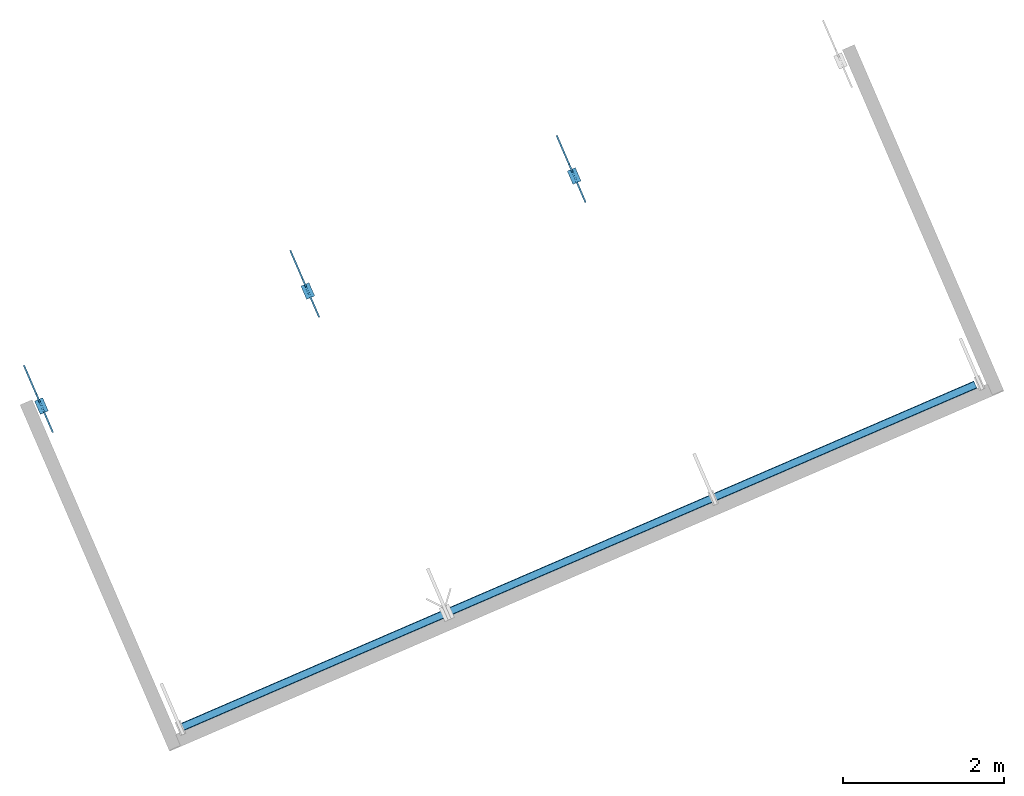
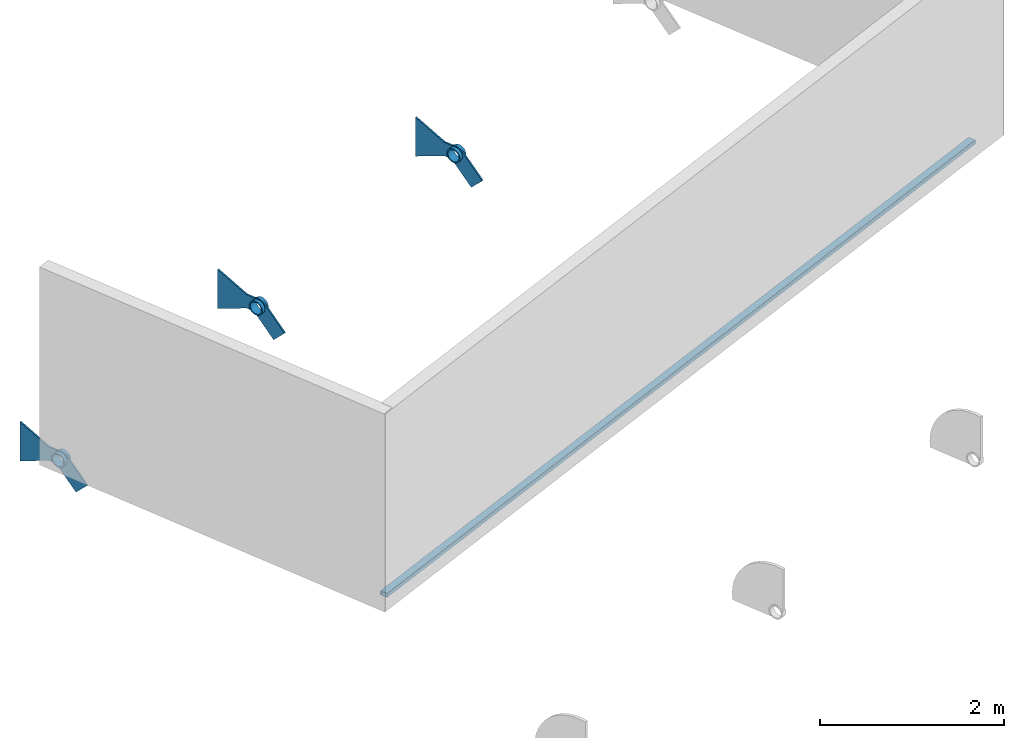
# One storey, part 2 of 5: 3 members, 1 beam.
"""IFC4 building model written with IfcOpenShell, lengths in metres."""

from ifc_helpers import new_model, entity, si_unit, converted_unit, derived_unit, direction, frame, origin, place, context, subcontext, project, spatial, line, arc, indexed_curve, outline, extrude, polygons, source, transform, mapped, material, type_object, type_shapes, element, save


model = new_model("IFC4")

# Units and contexts
model_context = context("Model", 3, precision=1e-05, world=origin(), true_north=direction((6.12323399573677e-17, 1.0)))
body_context = subcontext(model_context, "Body", "Model", "MODEL_VIEW")
ifc_project = project(units=[si_unit("LENGTHUNIT", "METRE"), si_unit("AREAUNIT", "SQUARE_METRE"), si_unit("VOLUMEUNIT", "CUBIC_METRE"), converted_unit("PLANEANGLEUNIT", "DEGREE", entity("IfcPlaneAngleMeasure", 0.0174532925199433), si_unit("PLANEANGLEUNIT", "RADIAN"), dimensions=[0, 0, 0, 0, 0, 0, 0]), si_unit("MASSUNIT", "GRAM", prefix="KILO"), derived_unit("MOMENTOFINERTIAUNIT", [(si_unit("LENGTHUNIT", "METRE"), 4)]), derived_unit("LINEARFORCEUNIT", [(si_unit("MASSUNIT", "GRAM", prefix="KILO"), 1), (si_unit("TIMEUNIT", "SECOND"), -2)]), derived_unit("THERMALTRANSMITTANCEUNIT", [(si_unit("MASSUNIT", "GRAM", prefix="KILO"), 1), (si_unit("THERMODYNAMICTEMPERATUREUNIT", "KELVIN"), -1), (si_unit("TIMEUNIT", "SECOND"), -3)]), derived_unit("USERDEFINED", [(si_unit("MASSUNIT", "GRAM", prefix="KILO"), 1), (si_unit("TIMEUNIT", "SECOND"), -2), (si_unit("THERMODYNAMICTEMPERATUREUNIT", "KELVIN"), -1)]), derived_unit("THERMALRESISTANCEUNIT", [(si_unit("MASSUNIT", "GRAM", prefix="KILO"), -1), (si_unit("TIMEUNIT", "SECOND"), 3), (si_unit("THERMODYNAMICTEMPERATUREUNIT", "KELVIN"), 1)])], contexts=[model_context])

# Site, building, storey
site_placement = place(None, origin())
site = spatial("IfcSite", under=ifc_project, at=site_placement, Name="Default", CompositionType="ELEMENT")
building_placement = place(site_placement, frame((4.92348780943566, -84.5603392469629, 320.975), z_axis=(0.0, 0.0, 1.0), x_axis=(-0.396377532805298, 0.918087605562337, 0.0)))
building = spatial("IfcBuilding", under=site, at=building_placement, CompositionType="ELEMENT")
storey_placement = place(building_placement, frame((0.0, 0.0, 4.25)))
storey = spatial("IfcBuildingStorey", under=building, at=storey_placement, Name="Level 2", CompositionType="ELEMENT", Elevation=4.25)

# Members
ifc_material_1 = material(Name="<Unnamed>")
member_type = type_object("IfcMemberType", Name="Union Metalica 3:Union Metalica 3", PredefinedType="PLATE", material=ifc_material_1)
shared_shape_1 = source(origin(), body_context, "Body", "Tessellation", [
    polygons([(-0.0550000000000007, -0.075, -2.42331686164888e-16), (-0.0550000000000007, -0.0724444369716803, 0.0194114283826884), (-0.0550000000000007, -0.0649519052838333, 0.0374999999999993), (-0.0550000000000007, -0.0530330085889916, 0.0530330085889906), (-0.0550000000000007, -0.0375000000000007, 0.0649519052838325), (-0.0550000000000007, -0.0194114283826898, 0.0724444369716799), (-0.0550000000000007, -8.1313785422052e-16, 0.075), (-0.0550000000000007, 0.0194114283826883, 0.0724444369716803), (-0.0550000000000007, 0.0374999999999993, 0.0649519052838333), (-0.0550000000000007, 0.0530330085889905, 0.0530330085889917), (-0.0550000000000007, 0.0649519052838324, 0.0375000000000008), (-0.0550000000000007, 0.0724444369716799, 0.01941142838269), (-0.0550000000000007, 0.075, 4.84663372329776e-16), (-0.010000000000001, 0.075, 5.51276753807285e-16), (-0.010000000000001, 0.07244443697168, 0.0194114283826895), (-0.010000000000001, 0.0649519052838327, 0.0375000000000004), (-0.010000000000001, 0.0530330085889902, 0.053033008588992), (-0.010000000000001, 0.039177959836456, 0.0639537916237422), (-0.010000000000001, 0.0231660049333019, 0.0713325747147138), (-0.010000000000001, 0.00587499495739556, 0.0747695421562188), (-0.010000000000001, -0.0117379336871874, 0.0740757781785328), (-0.010000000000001, -0.0287012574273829, 0.069290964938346), (-0.010000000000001, -0.0440795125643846, 0.0606794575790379), (-0.010000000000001, -0.0570242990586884, 0.0487158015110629), (-0.010000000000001, -0.06682058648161, 0.0340589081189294), (-0.010000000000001, -0.0729258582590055, 0.0175162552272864), (-0.010000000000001, -0.075, -2.09024995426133e-16), (-0.0550000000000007, -0.09, 2.90798023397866e-16), (-0.0550000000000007, -0.0869333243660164, -0.023293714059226), (-0.0550000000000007, -0.0779422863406, -0.0449999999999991), (-0.0550000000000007, -0.0636396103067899, -0.0636396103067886), (-0.0550000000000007, -0.0450000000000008, -0.077942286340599), (-0.0550000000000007, -0.0232937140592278, -0.0869333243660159), (-0.0550000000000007, -9.75765425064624e-16, -0.09), (-0.0550000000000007, 0.0232937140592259, -0.0869333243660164), (-0.0550000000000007, 0.0449999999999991, -0.0779422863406), (-0.0550000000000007, 0.0636396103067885, -0.06363961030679), (-0.0550000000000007, 0.0779422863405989, -0.045000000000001), (-0.0550000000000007, 0.0869333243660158, -0.0232937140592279), (-0.0550000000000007, 0.09, -5.81596046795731e-16), (-0.010000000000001, 0.09, -1.14114845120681e-15), (-0.010000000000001, 0.0873808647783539, -0.0215542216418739), (-0.010000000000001, 0.079677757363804, -0.0418503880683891), (-0.010000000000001, 0.0673410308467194, -0.0597091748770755), (-0.010000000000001, 0.0510895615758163, -0.0740935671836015), (-0.010000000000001, 0.0318689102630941, -0.0841687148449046), (-0.010000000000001, 0.0107964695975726, -0.0893500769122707), (-0.010000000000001, -0.0108991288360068, -0.0893376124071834), (-0.010000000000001, -0.0319573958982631, -0.0841351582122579), (-0.010000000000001, -0.0511587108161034, -0.0740458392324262), (-0.010000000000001, -0.0673877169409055, -0.0596564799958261), (-0.010000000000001, -0.0797022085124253, -0.041803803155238), (-0.010000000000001, -0.0873879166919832, -0.0215256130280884), (-0.010000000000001, -0.09, 2.5082999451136e-16), (-0.0550000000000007, 0.0869333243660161, 0.0232937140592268), (-0.0550000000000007, 0.0779422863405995, 0.045), (-0.0550000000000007, 0.0636396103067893, 0.0636396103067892), (-0.0550000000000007, 0.0450000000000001, 0.0779422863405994), (-0.0550000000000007, 0.023293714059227, 0.0869333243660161), (-0.0550000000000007, 1.2541499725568e-16, 0.09), (-0.0550000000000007, -0.0232937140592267, 0.0869333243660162), (-0.0550000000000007, -0.0449999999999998, 0.0779422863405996), (-0.0550000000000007, -0.0636396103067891, 0.0636396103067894), (-0.0550000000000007, -0.0779422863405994, 0.0450000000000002), (-0.0550000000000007, -0.0869333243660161, 0.0232937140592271), (-0.010000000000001, -0.0873808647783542, 0.0215542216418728), (-0.010000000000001, -0.0796777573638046, 0.0418503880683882), (-0.010000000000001, -0.0673410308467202, 0.0597091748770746), (-0.010000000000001, -0.0510895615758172, 0.0740935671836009), (-0.010000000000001, -0.0318689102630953, 0.0841687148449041), (-0.010000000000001, -0.0107964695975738, 0.0893500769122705), (-0.010000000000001, 0.0108991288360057, 0.0893376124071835), (-0.010000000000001, 0.0319573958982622, 0.0841351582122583), (-0.010000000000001, 0.0511587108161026, 0.0740458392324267), (-0.010000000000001, 0.0673877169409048, 0.0596564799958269), (-0.010000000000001, 0.0797022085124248, 0.0418038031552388), (-0.010000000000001, 0.0873879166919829, 0.0215256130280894), (-0.0550000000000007, 0.0724444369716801, -0.019411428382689), (-0.0550000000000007, 0.0649519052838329, -0.0375), (-0.0550000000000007, 0.0530330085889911, -0.053033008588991), (-0.0550000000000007, 0.0375000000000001, -0.0649519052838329), (-0.0550000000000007, 0.0194114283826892, -0.0724444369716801), (-0.0550000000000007, 1.04512497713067e-16, -0.075), (-0.0550000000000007, -0.019411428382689, -0.0724444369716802), (-0.0550000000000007, -0.0374999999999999, -0.064951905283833), (-0.0550000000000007, -0.0530330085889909, -0.0530330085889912), (-0.0550000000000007, -0.0649519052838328, -0.0375000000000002), (-0.0550000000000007, -0.0724444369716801, -0.0194114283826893), (-0.010000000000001, -0.0724444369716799, -0.0194114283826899), (-0.010000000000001, -0.0649519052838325, -0.0375000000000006), (-0.010000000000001, -0.053033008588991, -0.0530330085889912), (-0.010000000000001, -0.0391779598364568, -0.0639537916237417), (-0.010000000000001, -0.0231660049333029, -0.0713325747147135), (-0.010000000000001, -0.0058749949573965, -0.0747695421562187), (-0.010000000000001, 0.0117379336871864, -0.0740757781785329), (-0.010000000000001, 0.0287012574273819, -0.0692909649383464), (-0.010000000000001, 0.0440795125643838, -0.0606794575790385), (-0.010000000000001, 0.0570242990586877, -0.0487158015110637), (-0.010000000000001, 0.0668205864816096, -0.0340589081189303), (-0.010000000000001, 0.0729258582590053, -0.0175162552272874), (0.00999999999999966, -0.357088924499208, -0.20859650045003), (0.00999999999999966, -0.208596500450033, -0.357088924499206), (0.00999999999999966, 0.0584924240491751, -0.0899999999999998), (0.00999999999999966, 0.16, -0.0899999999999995), (0.00999999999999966, 0.55, -0.26), (0.00999999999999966, 0.55, 0.26), (0.00999999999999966, 0.16, 0.0899999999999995), (0.00999999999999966, 0.0540832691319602, 0.0899999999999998), (0.00999999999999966, 0.0330234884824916, 0.099671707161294), (0.00999999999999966, 0.0103677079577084, 0.104486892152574), (0.00999999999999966, -0.0127869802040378, 0.104218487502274), (0.00999999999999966, -0.0353212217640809, 0.0988807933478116), (0.00999999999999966, -0.0561366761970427, 0.0887337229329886), (0.00999999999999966, -0.0742462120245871, 0.0742462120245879), (0.00999999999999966, -0.09, -2.03037586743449e-16), (0.00999999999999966, -0.0873808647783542, 0.0215542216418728), (0.00999999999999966, -0.0796777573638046, 0.0418503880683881), (0.00999999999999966, -0.0673410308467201, 0.0597091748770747), (0.00999999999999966, -0.0510895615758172, 0.0740935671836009), (0.00999999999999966, -0.0318689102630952, 0.0841687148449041), (0.00999999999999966, -0.0107964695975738, 0.0893500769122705), (0.00999999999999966, 0.0108991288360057, 0.0893376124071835), (0.00999999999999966, 0.0319573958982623, 0.0841351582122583), (0.00999999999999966, 0.0511587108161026, 0.0740458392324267), (0.00999999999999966, 0.0673877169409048, 0.0596564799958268), (0.00999999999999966, 0.0797022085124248, 0.0418038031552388), (0.00999999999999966, 0.0873879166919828, 0.0215256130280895), (0.00999999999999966, 0.0900000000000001, -5.41433564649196e-16), (0.00999999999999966, 0.087380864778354, -0.0215542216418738), (0.00999999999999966, 0.079677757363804, -0.0418503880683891), (0.00999999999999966, 0.0673410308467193, -0.0597091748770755), (0.00999999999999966, 0.0510895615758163, -0.0740935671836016), (0.00999999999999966, 0.0318689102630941, -0.0841687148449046), (0.00999999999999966, 0.0107964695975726, -0.0893500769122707), (0.00999999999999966, -0.0108991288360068, -0.0893376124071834), (0.00999999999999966, -0.0319573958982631, -0.0841351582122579), (0.00999999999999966, -0.0511587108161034, -0.0740458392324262), (0.00999999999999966, -0.0673877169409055, -0.0596564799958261), (0.00999999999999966, -0.0797022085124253, -0.041803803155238), (0.00999999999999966, -0.0873879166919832, -0.0215256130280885), (-0.010000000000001, -0.357088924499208, -0.20859650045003), (-0.010000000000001, -0.0742462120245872, 0.0742462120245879), (-0.010000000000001, -0.0561366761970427, 0.0887337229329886), (-0.010000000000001, -0.035321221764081, 0.0988807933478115), (-0.010000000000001, -0.0127869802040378, 0.104218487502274), (-0.010000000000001, 0.0103677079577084, 0.104486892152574), (-0.010000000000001, 0.0330234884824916, 0.099671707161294), (-0.010000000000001, 0.0540832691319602, 0.0899999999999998), (-0.010000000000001, 0.16, 0.0899999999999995), (-0.010000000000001, 0.55, 0.26), (-0.010000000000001, 0.55, -0.26), (-0.010000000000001, 0.16, -0.0899999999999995), (-0.010000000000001, 0.058492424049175, -0.0899999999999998), (-0.010000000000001, -0.208596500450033, -0.357088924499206), (0.00999999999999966, -0.053033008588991, -0.0530330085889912), (0.00999999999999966, 0.0530330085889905, 0.0530330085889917), (0.00999999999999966, 0.0391779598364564, 0.063953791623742), (0.00999999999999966, 0.0231660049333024, 0.0713325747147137), (0.00999999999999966, 0.00587499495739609, 0.0747695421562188), (0.00999999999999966, -0.0117379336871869, 0.0740757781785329), (0.00999999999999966, -0.0287012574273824, 0.0692909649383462), (0.00999999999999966, -0.0440795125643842, 0.0606794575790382), (0.00999999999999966, -0.057024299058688, 0.0487158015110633), (0.00999999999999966, -0.0668205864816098, 0.0340589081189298), (0.00999999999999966, -0.0729258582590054, 0.0175162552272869), (0.00999999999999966, -0.075, -6.10054503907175e-16), (0.00999999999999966, -0.0724444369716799, -0.0194114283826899), (0.00999999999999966, -0.0649519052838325, -0.0375000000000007), (0.00999999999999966, -0.0391779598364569, -0.0639537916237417), (0.00999999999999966, -0.0231660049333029, -0.0713325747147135), (0.00999999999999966, -0.0058749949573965, -0.0747695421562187), (0.00999999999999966, 0.0117379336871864, -0.0740757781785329), (0.00999999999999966, 0.0287012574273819, -0.0692909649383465), (0.00999999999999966, 0.0440795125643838, -0.0606794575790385), (0.00999999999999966, 0.0570242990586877, -0.0487158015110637), (0.00999999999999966, 0.0668205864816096, -0.0340589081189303), (0.00999999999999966, 0.0729258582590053, -0.0175162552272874), (0.00999999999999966, 0.075, 6.85693198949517e-17), (0.00999999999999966, 0.0724444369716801, 0.0194114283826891), (0.00999999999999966, 0.0649519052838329, 0.0375), (0.0549999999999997, -0.09, 2.90798023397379e-16), (0.0549999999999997, -0.0869333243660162, -0.0232937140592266), (0.0549999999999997, -0.0779422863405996, -0.0449999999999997), (0.0549999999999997, -0.0636396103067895, -0.063639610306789), (0.0549999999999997, -0.0450000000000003, -0.0779422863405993), (0.0549999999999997, -0.0232937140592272, -0.086933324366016), (0.0549999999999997, -4.22994972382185e-16, -0.09), (0.0549999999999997, 0.0232937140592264, -0.0869333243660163), (0.0549999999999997, 0.0449999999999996, -0.0779422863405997), (0.0549999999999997, 0.0636396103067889, -0.0636396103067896), (0.0549999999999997, 0.0779422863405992, -0.0450000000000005), (0.0549999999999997, 0.086933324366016, -0.0232937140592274), (0.0549999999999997, 0.09, -4.92430958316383e-28), (0.0549999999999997, 0.0869333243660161, 0.0232937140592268), (0.0549999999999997, 0.0779422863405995, 0.045), (0.0549999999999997, 0.0636396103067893, 0.0636396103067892), (0.0549999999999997, 0.0450000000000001, 0.0779422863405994), (0.0549999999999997, 0.023293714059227, 0.0869333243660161), (0.0549999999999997, 1.18438592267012e-16, 0.09), (0.0549999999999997, -0.0232937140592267, 0.0869333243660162), (0.0549999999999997, -0.0449999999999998, 0.0779422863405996), (0.0549999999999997, -0.0636396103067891, 0.0636396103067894), (0.0549999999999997, -0.0779422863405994, 0.0450000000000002), (0.0549999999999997, -0.0869333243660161, 0.0232937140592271), (0.0549999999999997, -0.075, -2.42331686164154e-16), (0.0549999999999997, -0.0724444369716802, 0.0194114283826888), (0.0549999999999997, -0.064951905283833, 0.0374999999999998), (0.0549999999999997, -0.0530330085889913, 0.0530330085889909), (0.0549999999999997, -0.0375000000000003, 0.0649519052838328), (0.0549999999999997, -0.0194114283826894, 0.07244443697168), (0.0549999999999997, -3.38395977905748e-16, 0.075), (0.0549999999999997, 0.0194114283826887, 0.0724444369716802), (0.0549999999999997, 0.0374999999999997, 0.0649519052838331), (0.0549999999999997, 0.0530330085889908, 0.0530330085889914), (0.0549999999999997, 0.0649519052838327, 0.0375000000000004), (0.0549999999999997, 0.07244443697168, 0.0194114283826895), (0.0549999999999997, 0.075, -4.92430958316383e-28), (0.0549999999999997, 0.0724444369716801, -0.019411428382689), (0.0549999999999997, 0.0649519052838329, -0.0375), (0.0549999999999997, 0.0530330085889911, -0.053033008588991), (0.0549999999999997, 0.0375000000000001, -0.0649519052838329), (0.0549999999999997, 0.0194114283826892, -0.0724444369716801), (0.0549999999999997, 1.01518793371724e-16, -0.075), (0.0549999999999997, -0.0194114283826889, -0.0724444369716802), (0.0549999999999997, -0.0374999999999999, -0.064951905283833), (0.0549999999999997, -0.0530330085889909, -0.0530330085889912), (0.0549999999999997, -0.0649519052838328, -0.0375000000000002), (0.0549999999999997, -0.0724444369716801, -0.0194114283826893)], [[[27, 1, 26, 165, 205, 166]], [[26, 2, 25]], [[23, 24, 4]], [[3, 24, 25]], [[22, 23, 5]], [[2, 3, 25]], [[26, 1, 2]], [[7, 21, 6]], [[22, 5, 6]], [[5, 23, 4]], [[24, 3, 4]], [[22, 6, 21]], [[20, 8, 19]], [[19, 9, 18]], [[15, 179, 216, 215, 180, 16, 11, 12]], [[16, 180, 215, 214, 156, 17, 10, 11]], [[12, 13, 14, 178, 217, 216, 179, 15]], [[18, 10, 17, 156, 214, 157]], [[7, 8, 20]], [[8, 9, 19]], [[9, 10, 18]], [[21, 7, 20]], [[29, 53, 28]], [[30, 52, 29]], [[50, 31, 32]], [[30, 31, 51]], [[49, 32, 33]], [[29, 52, 53]], [[53, 54, 28]], [[115, 140, 181]], [[49, 50, 32]], [[51, 31, 50]], [[51, 52, 30]], [[48, 49, 33]], [[33, 34, 48]], [[35, 47, 34]], [[36, 46, 35]], [[44, 37, 38]], [[39, 40, 42]], [[36, 37, 45]], [[43, 38, 39]], [[36, 45, 46]], [[46, 47, 35]], [[41, 42, 40]], [[129, 128, 193]], [[45, 37, 44]], [[43, 44, 38]], [[42, 43, 39]], [[34, 47, 48]], [[55, 77, 40]], [[56, 76, 55]], [[74, 57, 58]], [[56, 57, 75]], [[73, 58, 59]], [[55, 76, 77]], [[77, 41, 40]], [[128, 127, 193]], [[73, 74, 58]], [[75, 57, 74]], [[75, 76, 56]], [[72, 73, 59]], [[59, 60, 72]], [[71, 60, 61]], [[70, 61, 62]], [[64, 65, 67]], [[68, 63, 64]], [[62, 63, 69]], [[66, 65, 28]], [[70, 71, 61]], [[69, 70, 62]], [[69, 63, 68]], [[64, 67, 68]], [[66, 67, 65]], [[28, 54, 66]], [[116, 115, 181]], [[60, 71, 72]], [[14, 13, 100, 177, 217, 178]], [[100, 78, 99]], [[97, 98, 80]], [[79, 98, 99]], [[96, 97, 81]], [[78, 79, 99]], [[100, 13, 78]], [[83, 95, 82]], [[96, 81, 82]], [[81, 97, 80]], [[98, 79, 80]], [[96, 82, 95]], [[92, 93, 85]], [[84, 93, 94]], [[87, 88, 89, 167, 228, 227, 168, 90]], [[90, 168, 227, 226, 155, 91, 86, 87]], [[91, 155, 226, 169, 92, 86]], [[27, 166, 205, 228, 167, 89, 88, 1]], [[94, 83, 84]], [[85, 93, 84]], [[86, 92, 85]], [[95, 83, 94]], [[114, 101, 102, 103, 104, 105, 106, 107, 108, 109, 110, 111, 112, 113], [118, 119, 120, 121, 122, 123, 124, 125, 126, 127, 128, 129, 130, 131, 132, 133, 134, 135, 136, 137, 138, 139, 140, 115, 116, 117]], [[189, 190, 191, 192, 193, 194, 195, 196, 197, 198, 199, 200, 201, 202, 203, 204, 181, 182, 183, 184, 185, 186, 187, 188], [221, 222, 223, 224, 225, 226, 227, 228, 205, 206, 207, 208, 209, 210, 211, 212, 213, 214, 215, 216, 217, 218, 219, 220]], [[153, 154, 141, 142, 143, 144, 145, 146, 147, 148, 149, 150, 151, 152], [46, 45, 44, 43, 42, 41, 77, 76, 75, 74, 73, 72, 71, 70, 69, 68, 67, 66, 54, 53, 52, 51, 50, 49, 48, 47]], [[58, 57, 56, 55, 40, 39, 38, 37, 36, 35, 34, 33, 32, 31, 30, 29, 28, 65, 64, 63, 62, 61, 60, 59], [9, 8, 7, 6, 5, 4, 3, 2, 1, 88, 87, 86, 85, 84, 83, 82, 81, 80, 79, 78, 13, 12, 11, 10]], [[102, 101, 141, 154]], [[103, 102, 154, 153]], [[109, 108, 148, 147]], [[110, 109, 147, 146]], [[111, 110, 146, 145]], [[112, 111, 145, 144]], [[113, 112, 144, 143]], [[114, 113, 143, 142]], [[101, 114, 142, 141]], [[25, 164, 165, 26]], [[164, 25, 24, 163]], [[24, 23, 162, 163]], [[162, 23, 22, 161]], [[161, 22, 21, 160]], [[158, 159, 20, 19]], [[18, 157, 158, 19]], [[20, 159, 160, 21]], [[99, 176, 177, 100]], [[176, 99, 98, 175]], [[98, 97, 174, 175]], [[174, 97, 96, 173]], [[173, 96, 95, 172]], [[170, 171, 94, 93]], [[92, 169, 170, 93]], [[94, 171, 172, 95]], [[139, 138, 183]], [[140, 139, 182]], [[136, 135, 186]], [[137, 136, 185]], [[138, 137, 184]], [[140, 182, 181]], [[183, 138, 184]], [[139, 183, 182]], [[185, 184, 137]], [[136, 186, 185]], [[135, 187, 186]], [[133, 132, 189]], [[134, 133, 188]], [[130, 129, 192]], [[191, 131, 130]], [[131, 190, 132]], [[133, 189, 188]], [[188, 187, 134]], [[193, 192, 129]], [[190, 189, 132]], [[191, 190, 131]], [[130, 192, 191]], [[134, 187, 135]], [[126, 125, 195]], [[127, 126, 194]], [[123, 122, 198]], [[124, 123, 197]], [[125, 124, 196]], [[127, 194, 193]], [[195, 125, 196]], [[126, 195, 194]], [[197, 196, 124]], [[123, 198, 197]], [[122, 199, 198]], [[200, 121, 120]], [[119, 201, 120]], [[202, 119, 118]], [[203, 118, 117]], [[204, 117, 116]], [[200, 199, 121]], [[201, 200, 120]], [[202, 118, 203]], [[203, 117, 204]], [[201, 119, 202]], [[181, 204, 116]], [[121, 199, 122]], [[205, 165, 206]], [[206, 164, 207]], [[209, 208, 162]], [[163, 208, 207]], [[210, 209, 161]], [[165, 164, 206]], [[209, 162, 161]], [[162, 208, 163]], [[207, 164, 163]], [[210, 161, 160]], [[160, 211, 210]], [[212, 211, 159]], [[212, 158, 213]], [[214, 213, 157]], [[158, 157, 213]], [[212, 159, 158]], [[160, 159, 211]], [[217, 177, 218]], [[218, 176, 219]], [[221, 220, 174]], [[175, 220, 219]], [[222, 221, 173]], [[177, 176, 218]], [[221, 174, 173]], [[174, 220, 175]], [[219, 176, 175]], [[222, 173, 172]], [[172, 223, 222]], [[225, 224, 170]], [[171, 224, 223]], [[169, 226, 225]], [[224, 171, 170]], [[169, 225, 170]], [[172, 171, 223]], [[107, 106, 150, 149]], [[108, 107, 149, 148]], [[104, 103, 153, 152]], [[105, 104, 152, 151]], [[106, 105, 151, 150]]], closed=True),
])
type_shapes(member_type, [shared_shape_1])
for number, where, z_axis, x_axis, name in (
    (1, (2.27316058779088, -1.48882295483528, 0.0), (0.0, 0.0, 1.0), (0.0, -1.0, 0.0), "Union Metalica 3:Union Metalica 3"),
    (2, (2.27316058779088, 2.11117704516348, 0.0), (0.0, 0.0, 1.0), (0.0, -1.0, 0.0), "Union Metalica 3:Union Metalica 3"),
    (3, (2.27316058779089, 5.71117704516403, 0.0), (0.0, 0.0, 1.0), (0.0, -1.0, 0.0), "Union Metalica 3:Union Metalica 3"),
):
    element("IfcMember", number, at=place(storey_placement, frame(where, z_axis=z_axis, x_axis=x_axis)), inside=storey, type_object=member_type, material=ifc_material_1, Name=name, ObjectType="Union Metalica 3:Union Metalica 3", PredefinedType="PLATE", context=body_context, shape_type="MappedRepresentation", body=[
        mapped(shared_shape_1, transform((0.0, 0.0, 0.0), scale=1.0)),
    ])

# Beam
ifc_material_2 = material(Name="Acero, 45-345", Category="Metal")
beam_type = type_object("IfcBeamType", Name="M_HSS Cuadrado:10x6", PredefinedType="BEAM", material=ifc_material_2)
shared_shape_2 = source(origin(), body_context, "Body", "SweptSolid", [
    extrude(outline(indexed_curve([(-0.017, -0.0500000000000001), (0.0169999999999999, -0.0500000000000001), (0.026192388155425, -0.0461923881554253), (0.03, -0.0370000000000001), (0.03, 0.0370000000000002), (0.026192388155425, 0.0461923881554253), (0.017, 0.0500000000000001), (-0.017, 0.0500000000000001), (-0.0261923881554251, 0.0461923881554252), (-0.03, 0.0370000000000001), (-0.03, -0.0370000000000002), (-0.026192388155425, -0.0461923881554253)], segments=[line(1, 2), arc(2, 3, 4), line(4, 5), arc(5, 6, 7), line(7, 8), arc(8, 9, 10), line(10, 11), arc(11, 12, 1)], self_intersect=False), holes=[indexed_curve([(-0.0204700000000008, 0.0369999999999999), (-0.0194536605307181, 0.0394536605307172), (-0.0170000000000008, 0.0404699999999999), (0.0169999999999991, 0.0404699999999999), (0.0194536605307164, 0.0394536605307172), (0.0204699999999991, 0.0369999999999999), (0.0204699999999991, -0.0369999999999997), (0.0194536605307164, -0.039453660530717), (0.0169999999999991, -0.0404699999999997), (-0.0170000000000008, -0.0404699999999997), (-0.0194536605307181, -0.039453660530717), (-0.0204700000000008, -0.0369999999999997)], segments=[arc(1, 2, 3), line(3, 4), arc(4, 5, 6), line(6, 7), arc(7, 8, 9), line(9, 10), arc(10, 11, 12), line(12, 1)], self_intersect=False)]), frame((-5.3575, 0.0, 0.0), z_axis=(1.0, 0.0, 0.0), x_axis=(0.0, 0.0, -1.0)), (0.0, 0.0, 1.0), 10.715),
])
type_shapes(beam_type, [shared_shape_2])
beam_placement = place(storey_placement, frame((-2.07683941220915, 0.323736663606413, 0.0), z_axis=(0.0, 0.0, 1.0), x_axis=(0.0, 1.0, 0.0)))
element("IfcBeam", 4, at=beam_placement, inside=storey, type_object=beam_type, Name="M_HSS Cuadrado:10x6", ObjectType="M_HSS Cuadrado:10x6", PredefinedType="BEAM", context=body_context, shape_type="MappedRepresentation", body=[
    mapped(shared_shape_2, transform((0.0, 0.0, 0.0), scale=1.0)),
])

save(model, "model.ifc")
